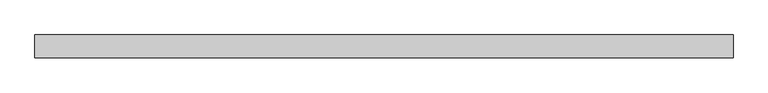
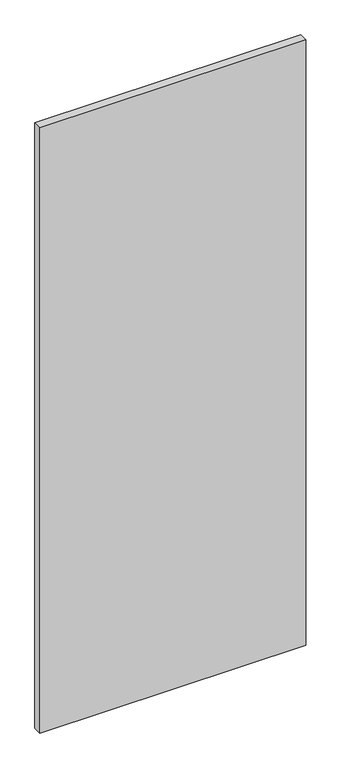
"""IFC4 building model written with IfcOpenShell, lengths in millimetres: plate geometry, Vitré."""

import ifcopenshell
import ifcopenshell.guid

model = None  # the IFC model being written
_history = None  # IfcOwnerHistory: only IFC2X3 demands one
_inside = {}  # id of a spatial element -> (the spatial element, [elements in it])
_under = {}  # id of a project, library or spatial element -> (it, [spatial elements below it])
_declared = {}  # id of a project -> (the project, [libraries it declares])
_typed = {}  # id of a type object -> (the type object, [elements of that type])
_made_of = {}  # id of a material, layer set ... -> (it, [elements and type objects made of it])


def new_model(schema):
    """Start an empty IFC model of exactly this schema.

    Asked for "IFC4X3", IfcOpenShell would pick the latest addendum, in which some entities
    have other attributes; the version numbers below select the first issue.
    IFC2X3 requires an IfcOwnerHistory on every rooted entity: one is made here for all.
    """
    global model, _history
    if schema == "IFC4X3":
        model = ifcopenshell.file(schema_version=(4, 3, 0, 0))
    else:
        model = ifcopenshell.file(schema=schema)
    _inside.clear()
    _under.clear()
    _declared.clear()
    _typed.clear()
    _made_of.clear()
    _history = None
    if model.schema == "IFC2X3":
        org = make("IfcOrganization", Name="unknown")
        user = make(
            "IfcPersonAndOrganization",
            ThePerson=make("IfcPerson", FamilyName="unknown"),
            TheOrganization=org,
        )
        app = make(
            "IfcApplication",
            ApplicationDeveloper=org,
            Version="unknown",
            ApplicationFullName="unknown",
            ApplicationIdentifier="unknown",
        )
        _history = make(
            "IfcOwnerHistory",
            OwningUser=user,
            OwningApplication=app,
            ChangeAction="ADDED",
            CreationDate=0,
        )
    return model


def make(cls, **values):
    """One entity of the class cls with the attributes given. An attribute that is None is left unset."""
    return model.create_entity(
        cls, **{name: value for name, value in values.items() if value is not None}
    )


def rooted(cls, **values):
    """An entity with a GlobalId (a new one), such as an element, a storey or a relation."""
    return make(cls, GlobalId=ifcopenshell.guid.new(), OwnerHistory=_history, **values)


def si_unit(unit_type, name, prefix=None):
    """IfcSIUnit, for example si_unit("LENGTHUNIT", "METRE", prefix="MILLI")."""
    return make("IfcSIUnit", UnitType=unit_type, Prefix=prefix, Name=name)


def assignment(units):
    """IfcUnitAssignment: the units of a project."""
    return None if units is None else make("IfcUnitAssignment", Units=units)


def point(xyz):
    """IfcCartesianPoint."""
    return None if xyz is None else make("IfcCartesianPoint", Coordinates=xyz)


def direction(xyz):
    """IfcDirection."""
    return None if xyz is None else make("IfcDirection", DirectionRatios=xyz)


def frame(location, z_axis=None, x_axis=None):
    """IfcAxis2Placement3D, a coordinate frame: its origin and axes. An axis left out is left unset."""
    return make(
        "IfcAxis2Placement3D",
        Location=point(location),
        Axis=direction(z_axis),
        RefDirection=direction(x_axis),
    )


def origin():
    """The frame at (0, 0, 0) with its axes left unset."""
    return frame((0.0, 0.0, 0.0))


def origin_with_axes():
    """The frame at (0, 0, 0) with the z axis (0, 0, 1) and the x axis (1, 0, 0) written out."""
    return frame((0.0, 0.0, 0.0), z_axis=(0.0, 0.0, 1.0), x_axis=(1.0, 0.0, 0.0))


def place(relative_to, where):
    """IfcLocalPlacement: puts the frame where relative to a parent placement (None: the world)."""
    return make(
        "IfcLocalPlacement", PlacementRelTo=relative_to, RelativePlacement=where
    )


def context(
    kind, dimensions, precision=None, world=None, true_north=None, identifier=None
):
    """IfcGeometricRepresentationContext, for example the 3D "Model" context."""
    return make(
        "IfcGeometricRepresentationContext",
        ContextIdentifier=identifier,
        ContextType=kind,
        CoordinateSpaceDimension=dimensions,
        Precision=precision,
        WorldCoordinateSystem=world,
        TrueNorth=true_north,
    )


def project(units=None, contexts=None):
    """IfcProject with its units and contexts."""
    return rooted(
        "IfcProject",
        Name="project",
        RepresentationContexts=contexts,
        UnitsInContext=assignment(units),
    )


def spatial(cls, under=None, at=None, **own):
    """A site, building, storey or space (cls), placed at a placement, below another one or the project."""
    s = rooted(cls, ObjectPlacement=at, **own)
    if under is not None:
        _under.setdefault(under.id(), (under, []))[1].append(s)
    return s


def polyline(points):
    """IfcPolyline through the points."""
    return make("IfcPolyline", Points=[point(p) for p in points])


def outline(outer, holes=None, kind="AREA"):
    """IfcArbitraryClosedProfileDef: a profile drawn as a closed curve; with holes, ...WithVoids."""
    if holes is None:
        return make("IfcArbitraryClosedProfileDef", ProfileType=kind, OuterCurve=outer)
    return make(
        "IfcArbitraryProfileDefWithVoids",
        ProfileType=kind,
        OuterCurve=outer,
        InnerCurves=holes,
    )


def extrude(swept, where, along, depth):
    """IfcExtrudedAreaSolid: the profile swept, set in the frame where, extruded along a direction by depth."""
    return make(
        "IfcExtrudedAreaSolid",
        SweptArea=swept,
        Position=where,
        ExtrudedDirection=direction(along),
        Depth=depth,
    )


def shape(context_of_items, identifier, shape_type, items):
    """IfcShapeRepresentation: the items that make up one representation, for example the "Body"."""
    return make(
        "IfcShapeRepresentation",
        ContextOfItems=context_of_items,
        RepresentationIdentifier=identifier,
        RepresentationType=shape_type,
        Items=items,
    )


def source(mapping_origin, context_of_items, identifier, shape_type, items):
    """IfcRepresentationMap: a shape defined once, which mapped items show again and again."""
    return make(
        "IfcRepresentationMap",
        MappingOrigin=mapping_origin,
        MappedRepresentation=shape(context_of_items, identifier, shape_type, items),
    )


def transform(
    local_origin,
    x_axis=None,
    y_axis=None,
    z_axis=None,
    scale=None,
    scale2=None,
    scale3=None,
    uniform=True,
):
    """IfcCartesianTransformationOperator3D, or its non-uniform kind. x_axis, y_axis, z_axis: its Axis1, 2, 3."""
    if uniform:
        return make(
            "IfcCartesianTransformationOperator3D",
            Axis1=direction(x_axis),
            Axis2=direction(y_axis),
            LocalOrigin=point(local_origin),
            Scale=scale,
            Axis3=direction(z_axis),
        )
    return make(
        "IfcCartesianTransformationOperator3DnonUniform",
        Axis1=direction(x_axis),
        Axis2=direction(y_axis),
        LocalOrigin=point(local_origin),
        Scale=scale,
        Axis3=direction(z_axis),
        Scale2=scale2,
        Scale3=scale3,
    )


def mapped(mapping_source, mapping_target):
    """IfcMappedItem: shows the shape of a source again, moved by a transform."""
    return make(
        "IfcMappedItem", MappingSource=mapping_source, MappingTarget=mapping_target
    )


def made_of(thing, what):
    """Note that an element or type object is made of a material, layer set ...; save() writes the relation."""
    if what is not None:
        _made_of.setdefault(what.id(), (what, []))[1].append(thing)
    return thing


def element(
    cls,
    number,
    at=None,
    inside=None,
    cuts=None,
    type_object=None,
    material=None,
    context=None,
    identifier="Body",
    shape_type=None,
    held_by="IfcProductDefinitionShape",
    body=None,
    shapes=None,
    **own,
):
    """One element of the class cls, such as IfcWall. Its Tag is "e" and its number.

    at: its placement. inside: the storey or other place that contains it. cuts: it is an
    opening in that element (IfcRelVoidsElement). A single representation is given by context,
    identifier, shape_type and body (its items); several are given by shapes. held_by: the class
    of the entity that holds the representations. save() writes the other relations.
    """
    e = rooted(cls, Tag="e%d" % number, ObjectPlacement=at, **own)
    if body is not None:
        shapes = [shape(context, identifier, shape_type, body)]
    if shapes is not None:
        e.Representation = make(held_by, Representations=shapes)
    if inside is not None:
        _inside.setdefault(inside.id(), (inside, []))[1].append(e)
    if cuts is not None:
        rooted(
            "IfcRelVoidsElement", RelatingBuildingElement=cuts, RelatedOpeningElement=e
        )
    if type_object is not None:
        _typed.setdefault(type_object.id(), (type_object, []))[1].append(e)
    return made_of(e, material)


def aggregate(whole, parts):
    """IfcRelAggregates: a whole, such as a stair, and the parts it consists of."""
    return rooted("IfcRelAggregates", RelatingObject=whole, RelatedObjects=parts)


def save(model, path):
    """Write the relations noted so far, then the file.

    IfcRelAggregates (storeys below a building ...), IfcRelContainedInSpatialStructure (elements
    in a storey), IfcRelDefinesByType, IfcRelAssociatesMaterial and IfcRelDeclares: one each for
    every whole, place, type object, material and project.
    """
    for whole, parts in _under.values():
        aggregate(whole, parts)
    for where, things in _inside.values():
        rooted(
            "IfcRelContainedInSpatialStructure",
            RelatedElements=things,
            RelatingStructure=where,
        )
    for kind, things in _typed.values():
        rooted("IfcRelDefinesByType", RelatedObjects=things, RelatingType=kind)
    for what, things in _made_of.values():
        rooted("IfcRelAssociatesMaterial", RelatedObjects=things, RelatingMaterial=what)
    for by, libraries in _declared.values():
        rooted("IfcRelDeclares", RelatingContext=by, RelatedDefinitions=libraries)
    model.write(path)


def plate_6e54a8a2(model_context):
    return source(origin(), model_context, "Body", "SweptSolid", [
        extrude(outline(polyline([(-615.0, -20.0), (-615.0, 20.0), (615.0, 20.0), (615.0, -20.0), (-615.0, -20.0)])), origin_with_axes(), (0.0, 0.0, 1.0), 2960.0),
    ])


if __name__ == "__main__":
    model = new_model("IFC4")
    model_context = context("Model", 3, world=origin())
    ifc_project = project(units=[si_unit("LENGTHUNIT", "METRE", prefix="MILLI")], contexts=[model_context])
    site = spatial("IfcSite", under=ifc_project)
    building = spatial("IfcBuilding", under=site)
    placement = place(None, origin())
    plate_shape = plate_6e54a8a2(model_context)
    element("IfcPlate", 1, ObjectType="Vitré", at=placement, inside=building, context=model_context, shape_type="MappedRepresentation", body=[
        mapped(plate_shape, transform((0.0, 0.0, 0.0), x_axis=(1.0, 0.0, 0.0), y_axis=(0.0, 1.0, 0.0), z_axis=(0.0, 0.0, 1.0))),
    ])
    save(model, "model.ifc")
